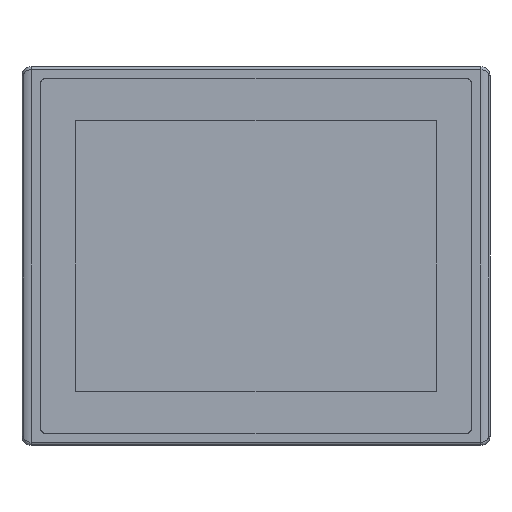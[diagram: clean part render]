
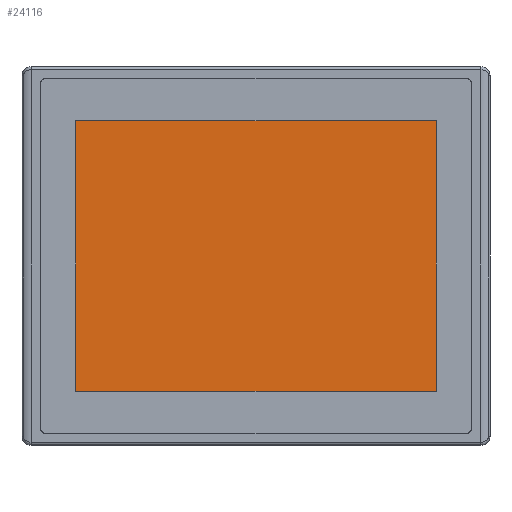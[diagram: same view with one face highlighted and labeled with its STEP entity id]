
A CAD part, top view. The second image highlights one B-rep face of the part: STEP entity #24116.
In plain terms, the highlighted planar face has unit normal (0, 0, 1).
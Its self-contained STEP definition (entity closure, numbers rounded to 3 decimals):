
#168=DIRECTION('',(1.,0.,0.));
#169=VECTOR('',#168,197.8);
#170=CARTESIAN_POINT('',(-98.9,74.33,5.9));
#171=LINE('',#170,#169);
#172=DIRECTION('',(0.,-1.,0.));
#173=VECTOR('',#172,148.66);
#174=CARTESIAN_POINT('',(98.9,74.33,5.9));
#175=LINE('',#174,#173);
#176=DIRECTION('',(-1.,0.,0.));
#177=VECTOR('',#176,197.8);
#178=CARTESIAN_POINT('',(98.9,-74.33,5.9));
#179=LINE('',#178,#177);
#180=DIRECTION('',(0.,1.,0.));
#181=VECTOR('',#180,148.66);
#182=CARTESIAN_POINT('',(-98.9,-74.33,5.9));
#183=LINE('',#182,#181);
#22475=CARTESIAN_POINT('',(98.9,74.33,5.9));
#22476=VERTEX_POINT('',#22475);
#22477=CARTESIAN_POINT('',(98.9,-74.33,5.9));
#22478=VERTEX_POINT('',#22477);
#22479=CARTESIAN_POINT('',(-98.9,-74.33,5.9));
#22480=VERTEX_POINT('',#22479);
#22481=CARTESIAN_POINT('',(-98.9,74.33,5.9));
#22482=VERTEX_POINT('',#22481);
#24105=CARTESIAN_POINT('',(0.,0.,5.9));
#24106=DIRECTION('',(0.,0.,1.));
#24107=DIRECTION('',(1.,0.,0.));
#24108=AXIS2_PLACEMENT_3D('',#24105,#24106,#24107);
#24109=PLANE('',#24108);
#24110=ORIENTED_EDGE('',*,*,#24057,.T.);
#24111=ORIENTED_EDGE('',*,*,#24072,.T.);
#24112=ORIENTED_EDGE('',*,*,#24086,.T.);
#24113=ORIENTED_EDGE('',*,*,#24099,.T.);
#24114=EDGE_LOOP('',(#24110,#24111,#24112,#24113));
#24115=FACE_OUTER_BOUND('',#24114,.F.);
#24057=EDGE_CURVE('',#22482,#22476,#171,.T.);
#24072=EDGE_CURVE('',#22476,#22478,#175,.T.);
#24086=EDGE_CURVE('',#22478,#22480,#179,.T.);
#24099=EDGE_CURVE('',#22480,#22482,#183,.T.);
#24116=ADVANCED_FACE('',(#24115),#24109,.T.);
